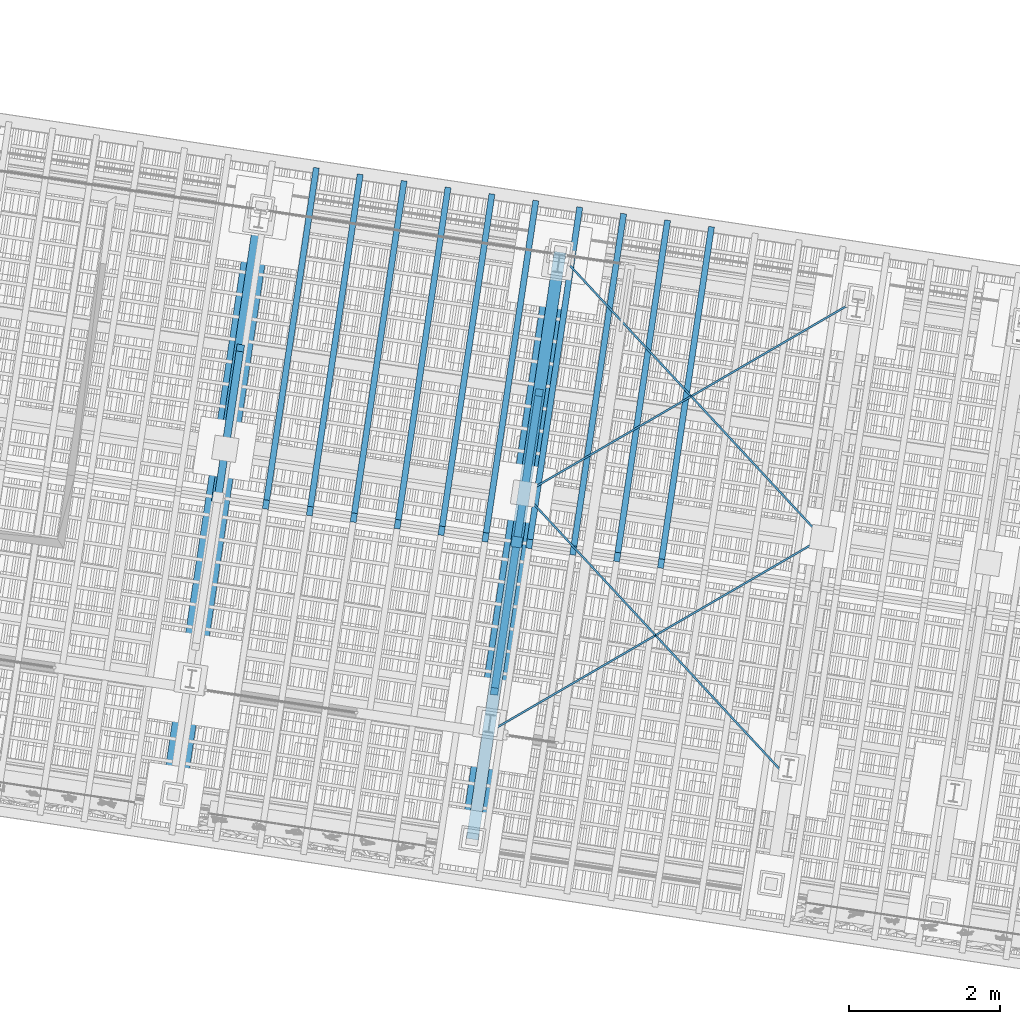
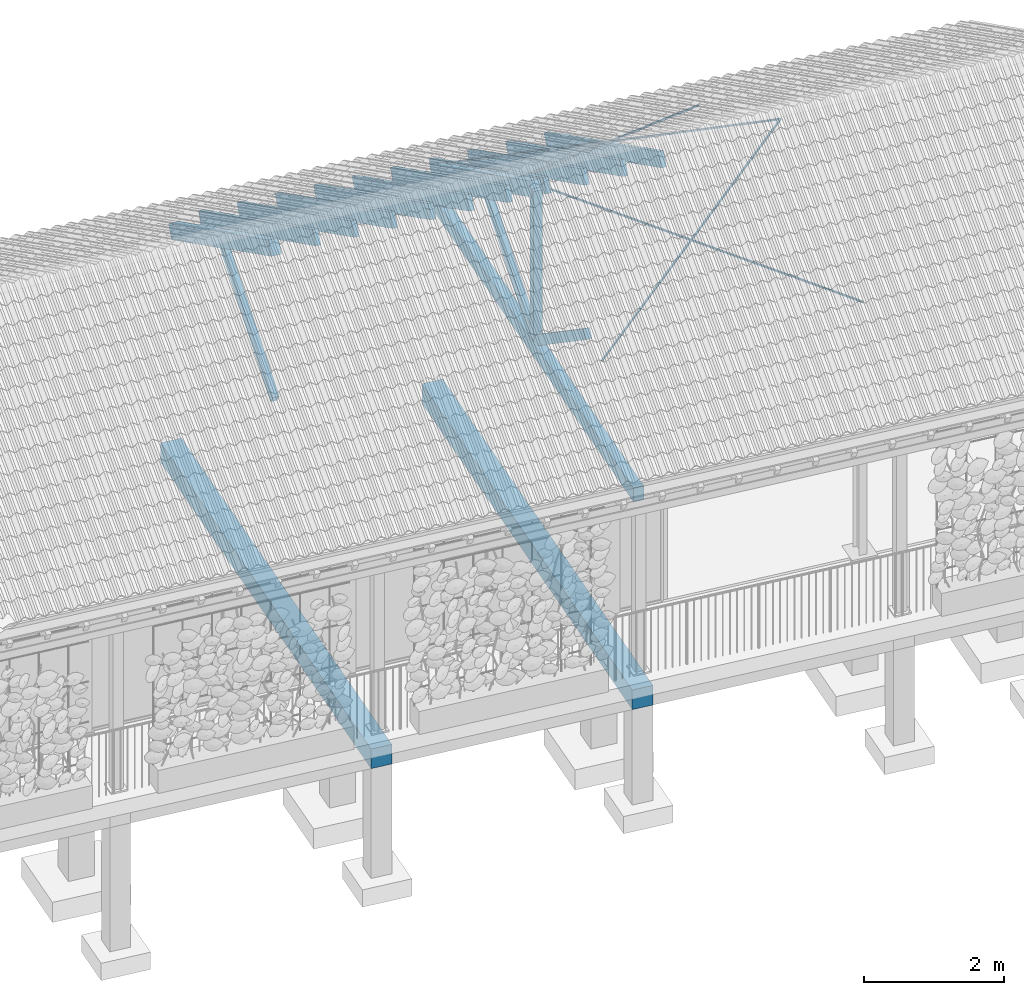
# One storey, part 96 of 131: 20 members, 3 beams, 2 elements without a shape of their own.
"""IFC4 building model written with IfcOpenShell, lengths in metres."""

from ifc_helpers import new_model, si_unit, direction, frame, origin_with_axes, place, context, subcontext, project, spatial, polyline, rectangle, outline, extrude, material, material_profile, profile_set, profile_usage, type_object, element, aggregate, save


model = new_model("IFC4")

# Units and contexts
model_context = context("Model", 3, precision=1e-05, world=origin_with_axes(), true_north=direction((0.0, 1.0)))
body_context = subcontext(model_context, "Body", "Model", "MODEL_VIEW")
ifc_project = project(units=[si_unit("VOLUMEUNIT", "CUBIC_METRE"), si_unit("LENGTHUNIT", "METRE"), si_unit("AREAUNIT", "SQUARE_METRE")], contexts=[model_context])

# Site, building, storey
site_placement = place(None, origin_with_axes())
site = spatial("IfcSite", under=ifc_project, at=site_placement, Name="Lares · Rua das Mercês · artigo 4771")
building_placement = place(site_placement, frame((15.0, 9.7, 15.8), z_axis=(0.0, 0.0, 1.0), x_axis=(0.989015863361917, -0.147809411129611, 0.0)))
building = spatial("IfcBuilding", under=site, at=building_placement, Name="Casa Sobreposta")
storey_placement = place(building_placement, origin_with_axes())
storey = spatial("IfcBuildingStorey", under=building, at=storey_placement, Name="00 · Habitação e estacionamento", Elevation=15.8)

# Roof, beam, members
ifc_material_1 = material(Name="Madeira / Bauholz", Category="wood")
roof_placement = place(storey_placement, origin_with_axes())
roof = element("IfcRoof", 1, at=roof_placement, inside=storey, material=ifc_material_1, Name="Cobertura de telha · duas águas 30 graus", PredefinedType="GABLE_ROOF")
ifc_material_profile_1 = material_profile(ifc_material_1, rectangle(XDim=0.16, YDim=0.24))
ifc_profile_set_1 = profile_set([ifc_material_profile_1], Name="TIMBER0.160x0.240")
ifc_profile_usage_1 = profile_usage(ifc_profile_set_1)
beam_type = type_object("IfcBeamType", Name="TIMBER0.160x0.240 / timber", PredefinedType="NOTDEFINED", material=ifc_profile_set_1)
beam_1_placement = place(roof_placement, frame((24.0, -1.43, 3.02), z_axis=(0.0, 1.0, 0.0), x_axis=(1.0, 0.0, 0.0)))
beam_1 = element("IfcBeam", 2, at=beam_1_placement, type_object=beam_type, material=ifc_profile_usage_1, Name="Tesoura · tirante inferior", context=body_context, shape_type="SweptSolid", body=[
    extrude(rectangle(XDim=0.16, YDim=0.24), origin_with_axes(), (0.0, 0.0, 1.0), 7.86),
])
ifc_material_profile_2 = material_profile(ifc_material_1, rectangle(XDim=0.16, YDim=0.24))
ifc_profile_set_2 = profile_set([ifc_material_profile_2], Name="TIMBER0.160x0.240")
ifc_profile_usage_2 = profile_usage(ifc_profile_set_2)
member_type_1 = type_object("IfcMemberType", Name="TIMBER0.160x0.240 / timber", PredefinedType="NOTDEFINED", material=ifc_profile_set_2)
member_1_placement = place(roof_placement, frame((20.0, 2.55, 5.74420869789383), z_axis=(0.0, 0.866025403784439, -0.5), x_axis=(1.0, 0.0, 0.0)))
member_1 = element("IfcMember", 3, at=member_1_placement, type_object=member_type_1, material=ifc_profile_usage_2, Name="Tesoura · perna", context=body_context, shape_type="SweptSolid", body=[
    extrude(rectangle(XDim=0.16, YDim=0.24), origin_with_axes(), (0.0, 0.0, 1.0), 4.4802380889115),
])
ifc_profile_usage_3 = profile_usage(ifc_profile_set_2)
member_2_placement = place(roof_placement, frame((24.0, 2.55, 5.74420869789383), z_axis=(0.0, 0.866025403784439, -0.5), x_axis=(1.0, 0.0, 0.0)))
member_2 = element("IfcMember", 4, at=member_2_placement, type_object=member_type_1, material=ifc_profile_usage_3, Name="Tesoura · perna", context=body_context, shape_type="SweptSolid", body=[
    extrude(rectangle(XDim=0.16, YDim=0.24), origin_with_axes(), (0.0, 0.0, 1.0), 4.4802380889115),
])
ifc_material_profile_3 = material_profile(ifc_material_1, rectangle(XDim=0.14, YDim=0.14))
ifc_profile_set_3 = profile_set([ifc_material_profile_3], Name="TIMBER0.140x0.140")
ifc_profile_usage_4 = profile_usage(ifc_profile_set_3)
member_type_2 = type_object("IfcMemberType", Name="TIMBER0.140x0.140 / timber", PredefinedType="NOTDEFINED", material=ifc_profile_set_3)
member_3_placement = place(roof_placement, frame((24.0, 2.55, 3.02), z_axis=(0.0, 0.0, 1.0), x_axis=(1.0, 0.0, 0.0)))
member_3 = element("IfcMember", 5, at=member_3_placement, type_object=member_type_2, material=ifc_profile_usage_4, Name="Tesoura · pendural", context=body_context, shape_type="SweptSolid", body=[
    extrude(rectangle(XDim=0.14, YDim=0.14), origin_with_axes(), (0.0, 0.0, 1.0), 2.72420869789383),
])
ifc_material_profile_4 = material_profile(ifc_material_1, rectangle(XDim=0.1, YDim=0.16))
ifc_profile_set_4 = profile_set([ifc_material_profile_4], Name="TIMBER0.100x0.160")
ifc_profile_usage_5 = profile_usage(ifc_profile_set_4)
member_type_3 = type_object("IfcMemberType", Name="TIMBER0.100x0.160 / timber", PredefinedType="NOTDEFINED", material=ifc_profile_set_4)
member_4_placement = place(roof_placement, frame((20.0, 2.55, 3.1), z_axis=(0.0, 0.816439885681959, 0.577430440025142), x_axis=(1.0, 0.0, 0.0)))
member_4 = element("IfcMember", 6, at=member_4_placement, type_object=member_type_3, material=ifc_profile_usage_5, Name="Tesoura · escora", context=body_context, shape_type="SweptSolid", body=[
    extrude(rectangle(XDim=0.1, YDim=0.16), origin_with_axes(), (0.0, 0.0, 1.0), 2.44965984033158),
])
ifc_profile_usage_6 = profile_usage(ifc_profile_set_4)
member_5_placement = place(roof_placement, frame((24.0, 2.55, 3.1), z_axis=(0.0, -0.816439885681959, 0.577430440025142), x_axis=(-1.0, 0.0, 0.0)))
member_5 = element("IfcMember", 7, at=member_5_placement, type_object=member_type_3, material=ifc_profile_usage_6, Name="Tesoura · escora", context=body_context, shape_type="SweptSolid", body=[
    extrude(rectangle(XDim=0.1, YDim=0.16), origin_with_axes(), (0.0, 0.0, 1.0), 2.44965984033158),
])
ifc_profile_usage_7 = profile_usage(ifc_profile_set_4)
member_6_placement = place(roof_placement, frame((24.0, 2.55, 3.1), z_axis=(0.0, 0.816439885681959, 0.577430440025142), x_axis=(1.0, 0.0, 0.0)))
member_6 = element("IfcMember", 8, at=member_6_placement, type_object=member_type_3, material=ifc_profile_usage_7, Name="Tesoura · escora", context=body_context, shape_type="SweptSolid", body=[
    extrude(rectangle(XDim=0.1, YDim=0.16), origin_with_axes(), (0.0, 0.0, 1.0), 2.44965984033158),
])
ifc_material_profile_5 = material_profile(ifc_material_1, rectangle(XDim=0.08, YDim=0.24))
ifc_profile_set_5 = profile_set([ifc_material_profile_5], Name="TIMBER0.080x0.240")
ifc_profile_usage_8 = profile_usage(ifc_profile_set_5)
member_type_4 = type_object("IfcMemberType", Name="TIMBER0.080x0.240 / timber", PredefinedType="NOTDEFINED", material=ifc_profile_set_5)
member_7_placement = place(roof_placement, frame((20.6424242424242, 2.55, 5.75020869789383), z_axis=(0.0, 0.866025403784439, -0.5), x_axis=(1.0, 0.0, 0.0)))
member_7 = element("IfcMember", 9, at=member_7_placement, type_object=member_type_4, material=ifc_profile_usage_8, Name="Cobertura · caibro", context=body_context, shape_type="SweptSolid", body=[
    extrude(rectangle(XDim=0.08, YDim=0.24), origin_with_axes(), (0.0, 0.0, 1.0), 5.13841739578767),
])
ifc_profile_usage_9 = profile_usage(ifc_profile_set_5)
member_8_placement = place(roof_placement, frame((21.230303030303, 2.55, 5.75020869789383), z_axis=(0.0, 0.866025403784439, -0.5), x_axis=(1.0, 0.0, 0.0)))
member_8 = element("IfcMember", 10, at=member_8_placement, type_object=member_type_4, material=ifc_profile_usage_9, Name="Cobertura · caibro", context=body_context, shape_type="SweptSolid", body=[
    extrude(rectangle(XDim=0.08, YDim=0.24), origin_with_axes(), (0.0, 0.0, 1.0), 5.13841739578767),
])
ifc_profile_usage_10 = profile_usage(ifc_profile_set_5)
member_9_placement = place(roof_placement, frame((21.8181818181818, 2.55, 5.75020869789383), z_axis=(0.0, 0.866025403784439, -0.5), x_axis=(1.0, 0.0, 0.0)))
member_9 = element("IfcMember", 11, at=member_9_placement, type_object=member_type_4, material=ifc_profile_usage_10, Name="Cobertura · caibro", context=body_context, shape_type="SweptSolid", body=[
    extrude(rectangle(XDim=0.08, YDim=0.24), origin_with_axes(), (0.0, 0.0, 1.0), 5.13841739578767),
])
ifc_profile_usage_11 = profile_usage(ifc_profile_set_5)
member_10_placement = place(roof_placement, frame((22.4060606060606, 2.55, 5.75020869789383), z_axis=(0.0, 0.866025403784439, -0.5), x_axis=(1.0, 0.0, 0.0)))
member_10 = element("IfcMember", 12, at=member_10_placement, type_object=member_type_4, material=ifc_profile_usage_11, Name="Cobertura · caibro", context=body_context, shape_type="SweptSolid", body=[
    extrude(rectangle(XDim=0.08, YDim=0.24), origin_with_axes(), (0.0, 0.0, 1.0), 5.13841739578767),
])
ifc_profile_usage_12 = profile_usage(ifc_profile_set_5)
member_11_placement = place(roof_placement, frame((22.9939393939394, 2.55, 5.75020869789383), z_axis=(0.0, 0.866025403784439, -0.5), x_axis=(1.0, 0.0, 0.0)))
member_11 = element("IfcMember", 13, at=member_11_placement, type_object=member_type_4, material=ifc_profile_usage_12, Name="Cobertura · caibro", context=body_context, shape_type="SweptSolid", body=[
    extrude(rectangle(XDim=0.08, YDim=0.24), origin_with_axes(), (0.0, 0.0, 1.0), 5.13841739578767),
])
ifc_profile_usage_13 = profile_usage(ifc_profile_set_5)
member_12_placement = place(roof_placement, frame((23.5818181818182, 2.55, 5.75020869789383), z_axis=(0.0, 0.866025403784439, -0.5), x_axis=(1.0, 0.0, 0.0)))
member_12 = element("IfcMember", 14, at=member_12_placement, type_object=member_type_4, material=ifc_profile_usage_13, Name="Cobertura · caibro", context=body_context, shape_type="SweptSolid", body=[
    extrude(rectangle(XDim=0.08, YDim=0.24), origin_with_axes(), (0.0, 0.0, 1.0), 5.13841739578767),
])
ifc_profile_usage_14 = profile_usage(ifc_profile_set_5)
member_13_placement = place(roof_placement, frame((24.169696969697, 2.55, 5.75020869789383), z_axis=(0.0, 0.866025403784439, -0.5), x_axis=(1.0, 0.0, 0.0)))
member_13 = element("IfcMember", 15, at=member_13_placement, type_object=member_type_4, material=ifc_profile_usage_14, Name="Cobertura · caibro", context=body_context, shape_type="SweptSolid", body=[
    extrude(rectangle(XDim=0.08, YDim=0.24), origin_with_axes(), (0.0, 0.0, 1.0), 5.13841739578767),
])
ifc_profile_usage_15 = profile_usage(ifc_profile_set_5)
member_14_placement = place(roof_placement, frame((24.7575757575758, 2.55, 5.75020869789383), z_axis=(0.0, 0.866025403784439, -0.5), x_axis=(1.0, 0.0, 0.0)))
member_14 = element("IfcMember", 16, at=member_14_placement, type_object=member_type_4, material=ifc_profile_usage_15, Name="Cobertura · caibro", context=body_context, shape_type="SweptSolid", body=[
    extrude(rectangle(XDim=0.08, YDim=0.24), origin_with_axes(), (0.0, 0.0, 1.0), 5.13841739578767),
])
ifc_profile_usage_16 = profile_usage(ifc_profile_set_5)
member_15_placement = place(roof_placement, frame((25.3454545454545, 2.55, 5.75020869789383), z_axis=(0.0, 0.866025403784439, -0.5), x_axis=(1.0, 0.0, 0.0)))
member_15 = element("IfcMember", 17, at=member_15_placement, type_object=member_type_4, material=ifc_profile_usage_16, Name="Cobertura · caibro", context=body_context, shape_type="SweptSolid", body=[
    extrude(rectangle(XDim=0.08, YDim=0.24), origin_with_axes(), (0.0, 0.0, 1.0), 5.13841739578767),
])
ifc_profile_usage_17 = profile_usage(ifc_profile_set_5)
member_16_placement = place(roof_placement, frame((25.9333333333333, 2.55, 5.75020869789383), z_axis=(0.0, 0.866025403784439, -0.5), x_axis=(1.0, 0.0, 0.0)))
member_16 = element("IfcMember", 18, at=member_16_placement, type_object=member_type_4, material=ifc_profile_usage_17, Name="Cobertura · caibro", context=body_context, shape_type="SweptSolid", body=[
    extrude(rectangle(XDim=0.08, YDim=0.24), origin_with_axes(), (0.0, 0.0, 1.0), 5.13841739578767),
])
ifc_material_2 = material(Name="Aço galvanizado / Stahl verzinkt", Category="steel")
ifc_material_profile_6 = material_profile(ifc_material_2, rectangle(XDim=0.025, YDim=0.025))
ifc_profile_set_6 = profile_set([ifc_material_profile_6], Name="R0.025")
ifc_profile_usage_18 = profile_usage(ifc_profile_set_6)
member_type_5 = type_object("IfcMemberType", Name="R0.025 / galvanized", PredefinedType="NOTDEFINED", material=ifc_profile_set_6)
member_17_placement = place(roof_placement, frame((24.0, 0.0, 4.39896551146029), z_axis=(0.763557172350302, 0.610845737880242, 0.209398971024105), x_axis=(0.624695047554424, -0.78086880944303, 0.0)))
member_17 = element("IfcMember", 19, at=member_17_placement, type_object=member_type_5, material=ifc_profile_usage_18, Name="Cobertura · fita de contraventamento", context=body_context, shape_type="SweptSolid", body=[
    extrude(rectangle(XDim=0.025, YDim=0.025), origin_with_axes(), (0.0, 0.0, 1.0), 5.2386384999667),
])
ifc_profile_usage_19 = profile_usage(ifc_profile_set_6)
member_18_placement = place(roof_placement, frame((24.0, 3.2, 5.49593102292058), z_axis=(0.763557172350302, -0.610845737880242, -0.209398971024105), x_axis=(-0.624695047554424, -0.78086880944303, 0.0)))
member_18 = element("IfcMember", 20, at=member_18_placement, type_object=member_type_5, material=ifc_profile_usage_19, Name="Cobertura · fita de contraventamento", context=body_context, shape_type="SweptSolid", body=[
    extrude(rectangle(XDim=0.025, YDim=0.025), origin_with_axes(), (0.0, 0.0, 1.0), 5.2386384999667),
])
ifc_profile_usage_20 = profile_usage(ifc_profile_set_6)
member_19_placement = place(roof_placement, frame((24.0, 3.2, 5.49593102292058), z_axis=(0.734553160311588, 0.58764252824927, -0.339275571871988), x_axis=(0.624695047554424, -0.78086880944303, 0.0)))
member_19 = element("IfcMember", 21, at=member_19_placement, type_object=member_type_5, material=ifc_profile_usage_20, Name="Cobertura · fita de contraventamento", context=body_context, shape_type="SweptSolid", body=[
    extrude(rectangle(XDim=0.025, YDim=0.025), origin_with_axes(), (0.0, 0.0, 1.0), 5.44548742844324),
])
ifc_profile_usage_21 = profile_usage(ifc_profile_set_6)
member_20_placement = place(roof_placement, frame((24.0, 6.4, 3.64841016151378), z_axis=(0.734553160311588, -0.58764252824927, 0.339275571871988), x_axis=(-0.624695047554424, -0.78086880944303, 0.0)))
member_20 = element("IfcMember", 22, at=member_20_placement, type_object=member_type_5, material=ifc_profile_usage_21, Name="Cobertura · fita de contraventamento", context=body_context, shape_type="SweptSolid", body=[
    extrude(rectangle(XDim=0.025, YDim=0.025), origin_with_axes(), (0.0, 0.0, 1.0), 5.44548742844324),
])
aggregate(roof, [member_1, member_4, beam_1, member_2, member_3, member_5, member_6, member_7, member_8, member_9, member_10, member_11, member_12, member_13, member_14, member_15, member_16, member_17, member_18, member_19, member_20])

# Assembly, beams
assembly_placement = place(storey_placement, origin_with_axes())
assembly = element("IfcElementAssembly", 23, at=assembly_placement, inside=storey, Name="Pódio · terraço, casa térrea e cisterna", ObjectType="CISTERN_PODIUM", PredefinedType="USERDEFINED")
ifc_material_3 = material(Name="Betão armado / Stahlbeton", Category="concrete")
beam_2_placement = place(assembly_placement, frame((0.0, 0.0, -0.59), z_axis=(0.0, 0.0, 1.0), x_axis=(1.0, 0.0, 0.0)))
beam_2 = element("IfcBeam", 24, at=beam_2_placement, material=ifc_material_3, Name="Pódio suspenso · viga transversal", context=body_context, shape_type="SweptSolid", body=[
    extrude(outline(polyline([(20.16, -1.59), (20.16, 6.59), (19.84, 6.59), (19.84, -1.59), (20.16, -1.59)])), origin_with_axes(), (0.0, 0.0, 1.0), 0.34),
])
beam_3_placement = place(assembly_placement, frame((0.0, 0.0, -0.59), z_axis=(0.0, 0.0, 1.0), x_axis=(1.0, 0.0, 0.0)))
beam_3 = element("IfcBeam", 25, at=beam_3_placement, material=ifc_material_3, Name="Pódio suspenso · viga transversal", context=body_context, shape_type="SweptSolid", body=[
    extrude(outline(polyline([(24.16, -1.59), (24.16, 6.59), (23.84, 6.59), (23.84, -1.59), (24.16, -1.59)])), origin_with_axes(), (0.0, 0.0, 1.0), 0.34),
])
aggregate(assembly, [beam_2, beam_3])

save(model, "model.ifc")
